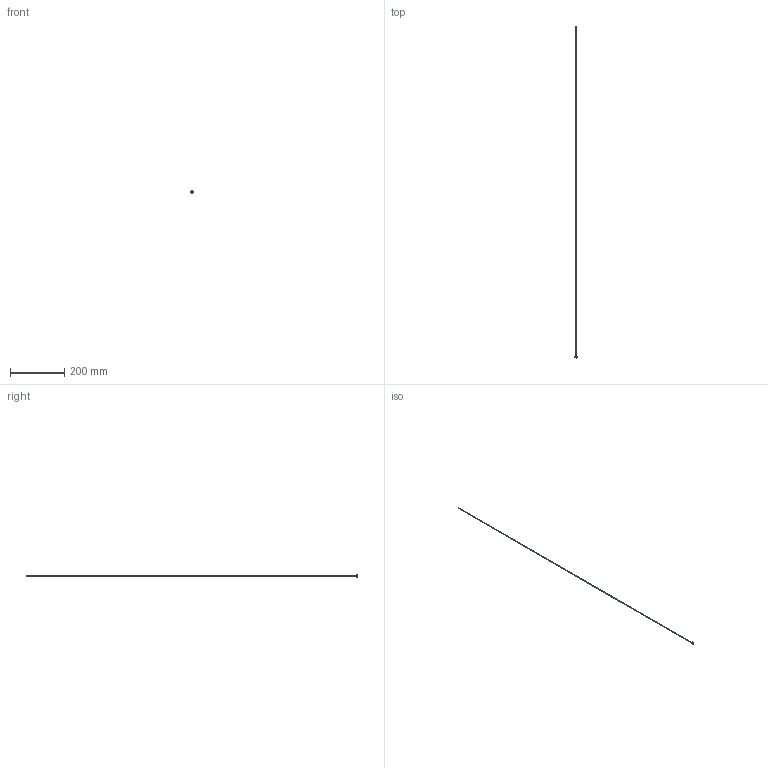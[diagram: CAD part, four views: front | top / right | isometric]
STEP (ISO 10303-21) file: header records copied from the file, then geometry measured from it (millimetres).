
FILE_DESCRIPTION(/* description */ (''),/* implementation_level */ '2;1');
FILE_NAME(/* name */ 'C:/Users/drich/Desktop/PT16-125-48 v1.step',/* time_stamp */ '2019-12-27T15:19:24-06:00',/* author */ (''),/* organization */ (''),/* preprocessor_version */ 'ST-DEVELOPER v18',/* originating_system */ 'Autodesk Translation Framework v8.12.0.6',/* authorisation */ '');
FILE_SCHEMA (('AUTOMOTIVE_DESIGN { 1 0 10303 214 3 1 1 }'));
Length unit declared in the file: inch
Products named in the file (1): PT16-125-48
Bounding box: 7.62 x 1219.2 x 7.62 mm (x, y, z)
Volume: 2519.2 mm3; surface area: 22935.2 mm2
Topology: 1 solids, 1 shells, 19 faces, 48 edges, 34 vertices
Faces by surface type: plane 11, cylinder 4, torus 2, cone 2
Full cylindrical faces by diameter (mm): 2.769 x1, 3.175 x1, 4.724 x1, 7.616 x1
Entity records: 633 total; most frequent: DIRECTION 112, CARTESIAN_POINT 102, ORIENTED_EDGE 96, EDGE_CURVE 48, AXIS2_PLACEMENT_3D 44, VERTEX_POINT 34, CIRCLE 24, EDGE_LOOP 24
